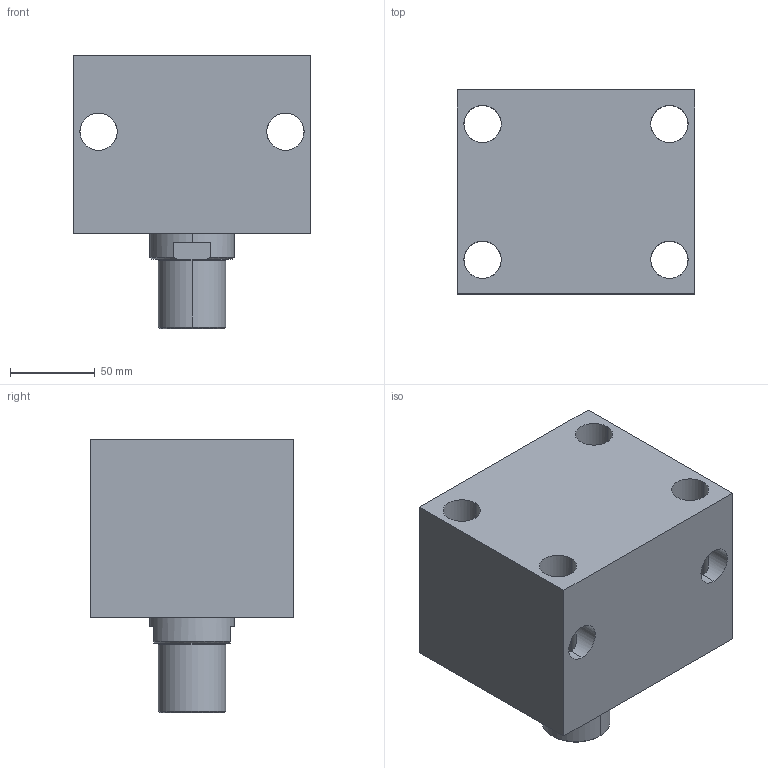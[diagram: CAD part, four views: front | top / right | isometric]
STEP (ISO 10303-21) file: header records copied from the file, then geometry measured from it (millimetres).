
FILE_DESCRIPTION (( 'STEP AP203' ), '1' );
FILE_NAME ('Block cylinder B01C-825M.STEP', '2022-07-09T18:18:26', ( '' ), ( '' ), 'SwSTEP 2.0', 'SolidWorks 2017', '' );
FILE_SCHEMA (( 'CONFIG_CONTROL_DESIGN' ));
Length unit declared in the file: millimetre
Products named in the file (3): Block cylinder B01C-825M; Body_ 825M_50ST; Piston _825M
Assembly tree (2 placements, depth 2):
  Block cylinder B01C-825M
    Body_ 825M_50ST
    Piston _825M
Bounding box: 140 x 120 x 161 mm (x, y, z)
Volume: 1723071.4 mm3; surface area: 164469.7 mm2
Topology: 2 solids, 2 shells, 361 faces, 984 edges, 644 vertices
Faces by surface type: bspline 159, plane 148, cylinder 46, cone 8
Entity records: 18219 total; most frequent: CARTESIAN_POINT 9923, ORIENTED_EDGE 1960, DIRECTION 1108, EDGE_CURVE 980, VERTEX_POINT 644, VECTOR 558, LINE 558, EDGE_LOOP 402
